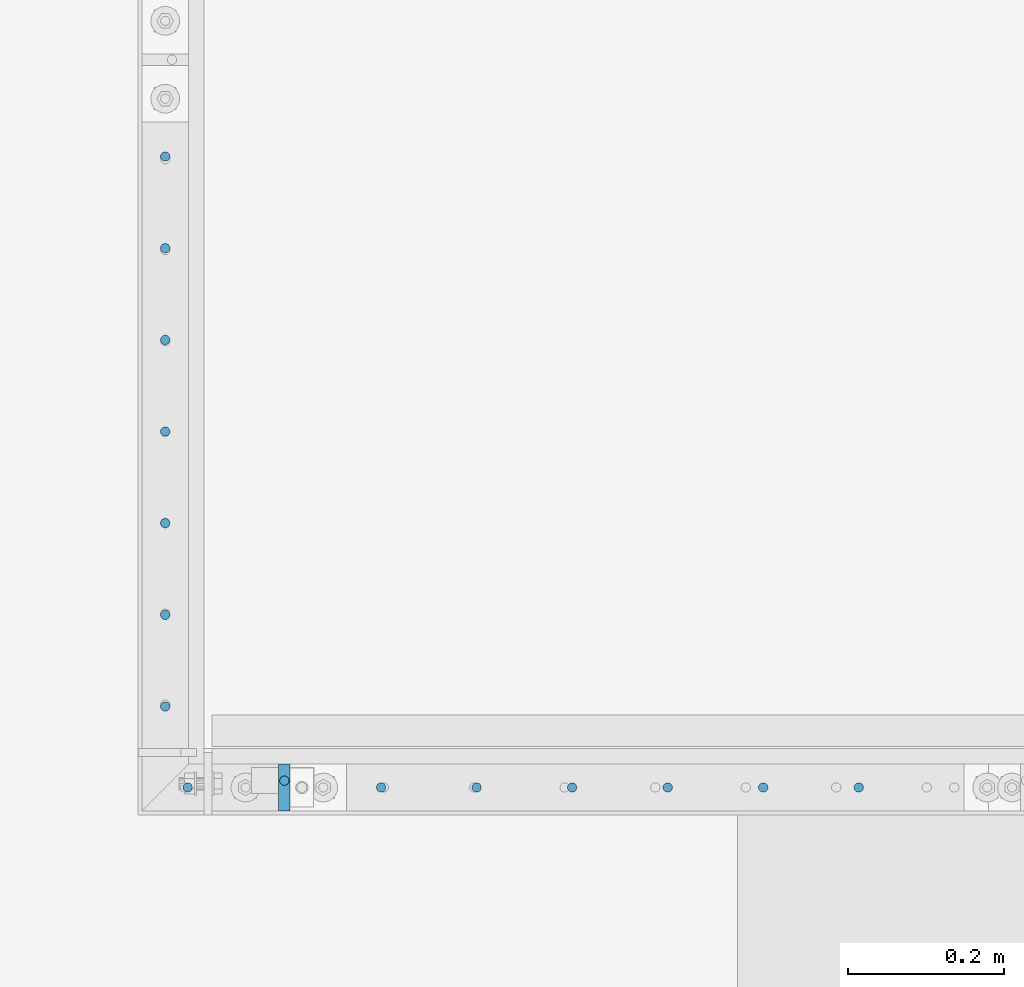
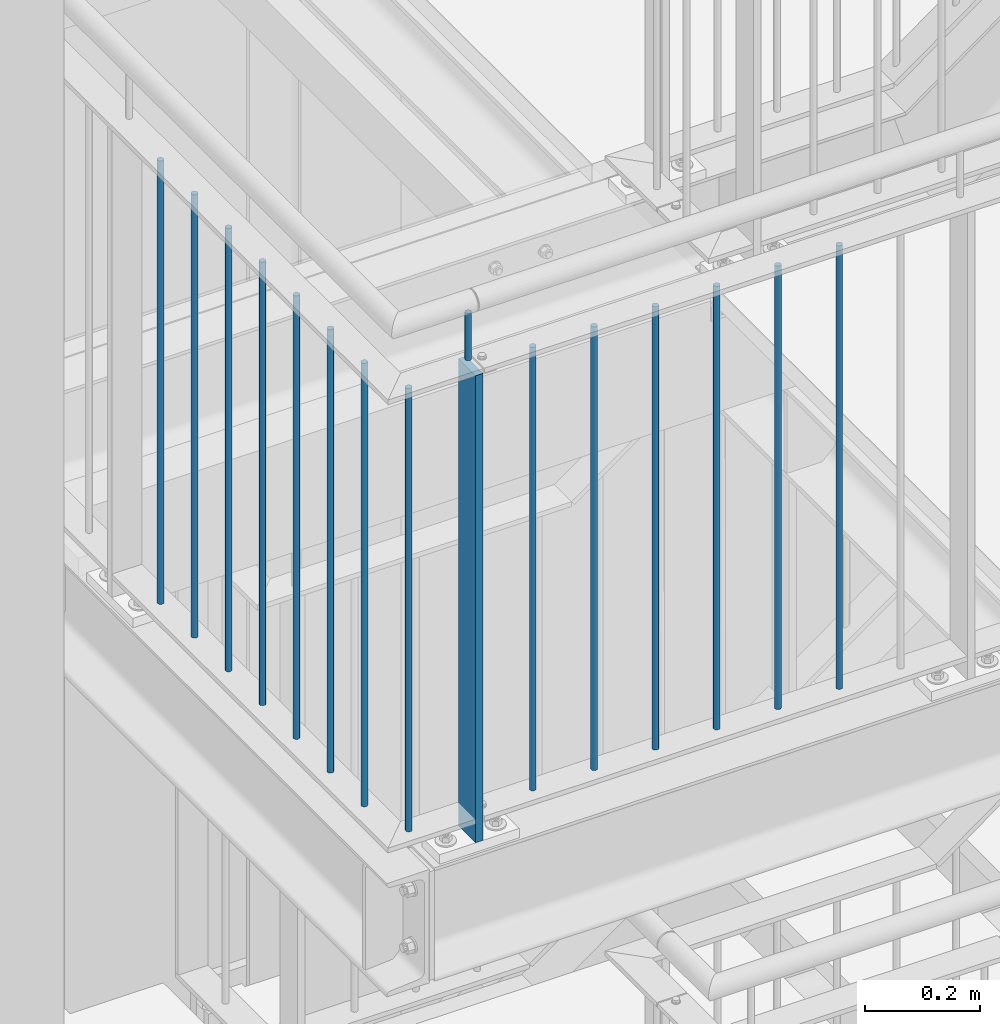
# One storey, part 5 of 825: 16 columns.
"""IFC2X3 building model written with IfcOpenShell, lengths in millimetres."""

import ifcopenshell
import ifcopenshell.guid

model = None  # the IFC model being written
_history = None  # IfcOwnerHistory: only IFC2X3 demands one
_inside = {}  # id of a spatial element -> (the spatial element, [elements in it])
_under = {}  # id of a project, library or spatial element -> (it, [spatial elements below it])
_declared = {}  # id of a project -> (the project, [libraries it declares])
_typed = {}  # id of a type object -> (the type object, [elements of that type])
_made_of = {}  # id of a material, layer set ... -> (it, [elements and type objects made of it])


def new_model(schema):
    """Start an empty IFC model of exactly this schema.

    Asked for "IFC4X3", IfcOpenShell would pick the latest addendum, in which some entities
    have other attributes; the version numbers below select the first issue.
    IFC2X3 requires an IfcOwnerHistory on every rooted entity: one is made here for all.
    """
    global model, _history
    if schema == "IFC4X3":
        model = ifcopenshell.file(schema_version=(4, 3, 0, 0))
    else:
        model = ifcopenshell.file(schema=schema)
    _inside.clear()
    _under.clear()
    _declared.clear()
    _typed.clear()
    _made_of.clear()
    _history = None
    if model.schema == "IFC2X3":
        org = make("IfcOrganization", Name="unknown")
        user = make(
            "IfcPersonAndOrganization",
            ThePerson=make("IfcPerson", FamilyName="unknown"),
            TheOrganization=org,
        )
        app = make(
            "IfcApplication",
            ApplicationDeveloper=org,
            Version="unknown",
            ApplicationFullName="unknown",
            ApplicationIdentifier="unknown",
        )
        _history = make(
            "IfcOwnerHistory",
            OwningUser=user,
            OwningApplication=app,
            ChangeAction="ADDED",
            CreationDate=0,
        )
    return model


def make(cls, **values):
    """One entity of the class cls with the attributes given. An attribute that is None is left unset."""
    return model.create_entity(
        cls, **{name: value for name, value in values.items() if value is not None}
    )


def entity(cls, *values):
    """Any entity or typed value of the class cls, its attributes in the order of the schema. None: left unset."""
    e = model.create_entity(cls)
    for i, value in enumerate(values):
        if value is not None:
            e[i] = value
    return e


def rooted(cls, **values):
    """An entity with a GlobalId (a new one), such as an element, a storey or a relation."""
    return make(cls, GlobalId=ifcopenshell.guid.new(), OwnerHistory=_history, **values)


def si_unit(unit_type, name, prefix=None):
    """IfcSIUnit, for example si_unit("LENGTHUNIT", "METRE", prefix="MILLI")."""
    return make("IfcSIUnit", UnitType=unit_type, Prefix=prefix, Name=name)


def converted_unit(unit_type, name, factor, base, dimensions=None, offset=None):
    """IfcConversionBasedUnit, such as the inch: factor (a typed value) times the base unit."""
    return make(
        "IfcConversionBasedUnit"
        if offset is None
        else "IfcConversionBasedUnitWithOffset",
        ConversionOffset=offset,
        Dimensions=None
        if dimensions is None
        else entity("IfcDimensionalExponents", *dimensions),
        UnitType=unit_type,
        Name=name,
        ConversionFactor=make(
            "IfcMeasureWithUnit", ValueComponent=factor, UnitComponent=base
        ),
    )


def assignment(units):
    """IfcUnitAssignment: the units of a project."""
    return None if units is None else make("IfcUnitAssignment", Units=units)


def point(xyz):
    """IfcCartesianPoint."""
    return None if xyz is None else make("IfcCartesianPoint", Coordinates=xyz)


def direction(xyz):
    """IfcDirection."""
    return None if xyz is None else make("IfcDirection", DirectionRatios=xyz)


def frame(location, z_axis=None, x_axis=None):
    """IfcAxis2Placement3D, a coordinate frame: its origin and axes. An axis left out is left unset."""
    return make(
        "IfcAxis2Placement3D",
        Location=point(location),
        Axis=direction(z_axis),
        RefDirection=direction(x_axis),
    )


def frame_2d(location, x_axis=None):
    """IfcAxis2Placement2D, a coordinate frame in the plane: its origin and x axis."""
    return make(
        "IfcAxis2Placement2D", Location=point(location), RefDirection=direction(x_axis)
    )


def origin():
    """The frame at (0, 0, 0) with its axes left unset."""
    return frame((0.0, 0.0, 0.0))


def origin_with_axes():
    """The frame at (0, 0, 0) with the z axis (0, 0, 1) and the x axis (1, 0, 0) written out."""
    return frame((0.0, 0.0, 0.0), z_axis=(0.0, 0.0, 1.0), x_axis=(1.0, 0.0, 0.0))


def origin_2d():
    """The frame at (0, 0) in the plane with its x axis left unset."""
    return frame_2d((0.0, 0.0))


def place(relative_to, where):
    """IfcLocalPlacement: puts the frame where relative to a parent placement (None: the world)."""
    return make(
        "IfcLocalPlacement", PlacementRelTo=relative_to, RelativePlacement=where
    )


def context(
    kind, dimensions, precision=None, world=None, true_north=None, identifier=None
):
    """IfcGeometricRepresentationContext, for example the 3D "Model" context."""
    return make(
        "IfcGeometricRepresentationContext",
        ContextIdentifier=identifier,
        ContextType=kind,
        CoordinateSpaceDimension=dimensions,
        Precision=precision,
        WorldCoordinateSystem=world,
        TrueNorth=true_north,
    )


def project(units=None, contexts=None):
    """IfcProject with its units and contexts."""
    return rooted(
        "IfcProject",
        Name="project",
        RepresentationContexts=contexts,
        UnitsInContext=assignment(units),
    )


def spatial(cls, under=None, at=None, **own):
    """A site, building, storey or space (cls), placed at a placement, below another one or the project."""
    s = rooted(cls, ObjectPlacement=at, **own)
    if under is not None:
        _under.setdefault(under.id(), (under, []))[1].append(s)
    return s


def profile(cls, at=None, kind="AREA", **sizes):
    """A parametric profile (cls). Its sizes go by their IFC names, for example OverallWidth=200.0."""
    return make(cls, ProfileType=kind, Position=at, **sizes)


def rectangle(**sizes):
    """IfcRectangleProfileDef."""
    return profile("IfcRectangleProfileDef", **sizes)


def circle(**sizes):
    """IfcCircleProfileDef."""
    return profile("IfcCircleProfileDef", **sizes)


def extrude(swept, where, along, depth):
    """IfcExtrudedAreaSolid: the profile swept, set in the frame where, extruded along a direction by depth."""
    return make(
        "IfcExtrudedAreaSolid",
        SweptArea=swept,
        Position=where,
        ExtrudedDirection=direction(along),
        Depth=depth,
    )


def clip(a, b, op="DIFFERENCE"):
    """IfcBooleanClippingResult: the solid a cut by the half space b."""
    return make(
        "IfcBooleanClippingResult", Operator=op, FirstOperand=a, SecondOperand=b
    )


def halfspace(plane, agree):
    """IfcHalfSpaceSolid: all space on one side of the plane z = 0 of the frame plane."""
    return make(
        "IfcHalfSpaceSolid",
        BaseSurface=make("IfcPlane", Position=plane),
        AgreementFlag=agree,
    )


def shape(context_of_items, identifier, shape_type, items):
    """IfcShapeRepresentation: the items that make up one representation, for example the "Body"."""
    return make(
        "IfcShapeRepresentation",
        ContextOfItems=context_of_items,
        RepresentationIdentifier=identifier,
        RepresentationType=shape_type,
        Items=items,
    )


def material(Name=None, Category=None):
    """IfcMaterial."""
    return make("IfcMaterial", Name=Name, Category=Category)


def made_of(thing, what):
    """Note that an element or type object is made of a material, layer set ...; save() writes the relation."""
    if what is not None:
        _made_of.setdefault(what.id(), (what, []))[1].append(thing)
    return thing


def element(
    cls,
    number,
    at=None,
    inside=None,
    cuts=None,
    type_object=None,
    material=None,
    context=None,
    identifier="Body",
    shape_type=None,
    held_by="IfcProductDefinitionShape",
    body=None,
    shapes=None,
    **own,
):
    """One element of the class cls, such as IfcWall. Its Tag is "e" and its number.

    at: its placement. inside: the storey or other place that contains it. cuts: it is an
    opening in that element (IfcRelVoidsElement). A single representation is given by context,
    identifier, shape_type and body (its items); several are given by shapes. held_by: the class
    of the entity that holds the representations. save() writes the other relations.
    """
    e = rooted(cls, Tag="e%d" % number, ObjectPlacement=at, **own)
    if body is not None:
        shapes = [shape(context, identifier, shape_type, body)]
    if shapes is not None:
        e.Representation = make(held_by, Representations=shapes)
    if inside is not None:
        _inside.setdefault(inside.id(), (inside, []))[1].append(e)
    if cuts is not None:
        rooted(
            "IfcRelVoidsElement", RelatingBuildingElement=cuts, RelatedOpeningElement=e
        )
    if type_object is not None:
        _typed.setdefault(type_object.id(), (type_object, []))[1].append(e)
    return made_of(e, material)


def aggregate(whole, parts):
    """IfcRelAggregates: a whole, such as a stair, and the parts it consists of."""
    return rooted("IfcRelAggregates", RelatingObject=whole, RelatedObjects=parts)


def save(model, path):
    """Write the relations noted so far, then the file.

    IfcRelAggregates (storeys below a building ...), IfcRelContainedInSpatialStructure (elements
    in a storey), IfcRelDefinesByType, IfcRelAssociatesMaterial and IfcRelDeclares: one each for
    every whole, place, type object, material and project.
    """
    for whole, parts in _under.values():
        aggregate(whole, parts)
    for where, things in _inside.values():
        rooted(
            "IfcRelContainedInSpatialStructure",
            RelatedElements=things,
            RelatingStructure=where,
        )
    for kind, things in _typed.values():
        rooted("IfcRelDefinesByType", RelatedObjects=things, RelatingType=kind)
    for what, things in _made_of.values():
        rooted("IfcRelAssociatesMaterial", RelatedObjects=things, RelatingMaterial=what)
    for by, libraries in _declared.values():
        rooted("IfcRelDeclares", RelatingContext=by, RelatedDefinitions=libraries)
    model.write(path)


model = new_model("IFC2X3")

# Units and contexts
model_context = context("Model", 3, precision=1e-09, world=origin_with_axes())
ifc_project = project(units=[si_unit("LENGTHUNIT", "METRE", prefix="MILLI"), si_unit("AREAUNIT", "SQUARE_METRE"), si_unit("VOLUMEUNIT", "CUBIC_METRE"), converted_unit("PLANEANGLEUNIT", "DEGREE", entity("IfcPlaneAngleMeasure", 0.01745329), si_unit("PLANEANGLEUNIT", "RADIAN"), dimensions=[0, 0, 0, 0, 0, 0, 0])], contexts=[model_context])

# Site, building, storey
site_placement = place(None, origin_with_axes())
site = spatial("IfcSite", under=ifc_project, at=site_placement, Name="Cnopf'sche Kinderklinik", CompositionType="ELEMENT")
building_placement = place(site_placement, origin_with_axes())
building = spatial("IfcBuilding", under=site, at=building_placement, Name="Struktur 1", CompositionType="ELEMENT")
storey_placement = place(building_placement, origin_with_axes())
storey = spatial("IfcBuildingStorey", under=building, at=storey_placement, Name="Default Storey", CompositionType="ELEMENT", Elevation=0.0)

# Columns
ifc_material = material(Name="S235JR")
column_1_placement = place(None, frame((3424.79154585, 4526.736971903, 10991.723292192), z_axis=(0.0, 0.0, 1.0), x_axis=(-1.0, 0.0, 0.0)))
element("IfcColumn", 1, at=column_1_placement, inside=storey, material=ifc_material, Name="Railing_Post_Landing#13", ObjectType="Railing_Post_Landing#13", context=model_context, shape_type="Clipping", body=[
    clip(clip(extrude(rectangle(XDim=15.0, YDim=60.0, at=origin_2d()), origin(), (0.0, 0.0, -1.0), 1070.646584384), halfspace(frame((3424.79154585, 4526.736971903, -1019.722292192), z_axis=(0.0, 0.0, 1.0), x_axis=(-1.0, 0.0, 0.0)), True)), halfspace(frame((3424.79154585, 4526.736971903, -30.924292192), z_axis=(0.0, 0.0, -1.0), x_axis=(1.0, 0.0, 0.0)), True)),
])
column_2_placement = place(None, frame((4162.791664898, 4526.736971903, 10974.285281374), z_axis=(0.0, 0.0, 1.0), x_axis=(-1.0, 0.0, 0.0)))
element("IfcColumn", 2, at=column_2_placement, inside=storey, material=ifc_material, Name="Railing_Picket_Landing#84", ObjectType="Railing_Picket_Landing#84", context=model_context, shape_type="Clipping", body=[
    clip(clip(extrude(circle(Radius=6.0, at=origin_2d()), origin(), (0.0, 0.0, -1.0), 965.770562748), halfspace(frame((4162.791664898, 4526.736971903, -13.486281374), z_axis=(0.0, 0.0, -1.0), x_axis=(1.0, 0.0, 0.0)), True)), halfspace(frame((4162.791664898, 4526.736971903, -952.284281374), z_axis=(0.0, 0.0, 1.0), x_axis=(-1.0, 0.0, 0.0)), True)),
])
column_3_placement = place(None, frame((4040.041641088, 4526.736971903, 10974.285281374), z_axis=(0.0, 0.0, 1.0), x_axis=(-1.0, 0.0, 0.0)))
element("IfcColumn", 3, at=column_3_placement, inside=storey, material=ifc_material, Name="Railing_Picket_Landing#85", ObjectType="Railing_Picket_Landing#85", context=model_context, shape_type="Clipping", body=[
    clip(clip(extrude(circle(Radius=6.0, at=origin_2d()), origin(), (0.0, 0.0, -1.0), 965.770562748), halfspace(frame((4040.041641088, 4526.736971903, -13.486281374), z_axis=(0.0, 0.0, -1.0), x_axis=(1.0, 0.0, 0.0)), True)), halfspace(frame((4040.041641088, 4526.736971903, -952.284281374), z_axis=(0.0, 0.0, 1.0), x_axis=(-1.0, 0.0, 0.0)), True)),
])
column_4_placement = place(None, frame((3917.291617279, 4526.736971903, 10974.285281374), z_axis=(0.0, 0.0, 1.0), x_axis=(-1.0, 0.0, 0.0)))
element("IfcColumn", 4, at=column_4_placement, inside=storey, material=ifc_material, Name="Railing_Picket_Landing#86", ObjectType="Railing_Picket_Landing#86", context=model_context, shape_type="Clipping", body=[
    clip(clip(extrude(circle(Radius=6.0, at=origin_2d()), origin(), (0.0, 0.0, -1.0), 965.770562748), halfspace(frame((3917.291617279, 4526.736971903, -13.486281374), z_axis=(0.0, 0.0, -1.0), x_axis=(1.0, 0.0, 0.0)), True)), halfspace(frame((3917.291617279, 4526.736971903, -952.284281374), z_axis=(0.0, 0.0, 1.0), x_axis=(-1.0, 0.0, 0.0)), True)),
])
column_5_placement = place(None, frame((3794.541593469, 4526.736971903, 10974.285281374), z_axis=(0.0, 0.0, 1.0), x_axis=(-1.0, 0.0, 0.0)))
element("IfcColumn", 5, at=column_5_placement, inside=storey, material=ifc_material, Name="Railing_Picket_Landing#87", ObjectType="Railing_Picket_Landing#87", context=model_context, shape_type="Clipping", body=[
    clip(clip(extrude(circle(Radius=6.0, at=origin_2d()), origin(), (0.0, 0.0, -1.0), 965.770562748), halfspace(frame((3794.541593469, 4526.736971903, -13.486281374), z_axis=(0.0, 0.0, -1.0), x_axis=(1.0, 0.0, 0.0)), True)), halfspace(frame((3794.541593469, 4526.736971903, -952.284281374), z_axis=(0.0, 0.0, 1.0), x_axis=(-1.0, 0.0, 0.0)), True)),
])
column_6_placement = place(None, frame((3671.79156966, 4526.736971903, 10974.285281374), z_axis=(0.0, 0.0, 1.0), x_axis=(-1.0, 0.0, 0.0)))
element("IfcColumn", 6, at=column_6_placement, inside=storey, material=ifc_material, Name="Railing_Picket_Landing#88", ObjectType="Railing_Picket_Landing#88", context=model_context, shape_type="Clipping", body=[
    clip(clip(extrude(circle(Radius=6.0, at=origin_2d()), origin(), (0.0, 0.0, -1.0), 965.770562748), halfspace(frame((3671.79156966, 4526.736971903, -13.486281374), z_axis=(0.0, 0.0, -1.0), x_axis=(1.0, 0.0, 0.0)), True)), halfspace(frame((3671.79156966, 4526.736971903, -952.284281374), z_axis=(0.0, 0.0, 1.0), x_axis=(-1.0, 0.0, 0.0)), True)),
])
column_7_placement = place(None, frame((3549.04154585, 4526.736971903, 10974.285281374), z_axis=(0.0, 0.0, 1.0), x_axis=(-1.0, 0.0, 0.0)))
element("IfcColumn", 7, at=column_7_placement, inside=storey, material=ifc_material, Name="Railing_Picket_Landing#89", ObjectType="Railing_Picket_Landing#89", context=model_context, shape_type="Clipping", body=[
    clip(clip(extrude(circle(Radius=6.0, at=origin_2d()), origin(), (0.0, 0.0, -1.0), 965.770562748), halfspace(frame((3549.04154585, 4526.736971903, -13.486281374), z_axis=(0.0, 0.0, -1.0), x_axis=(1.0, 0.0, 0.0)), True)), halfspace(frame((3549.04154585, 4526.736971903, -952.284281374), z_axis=(0.0, 0.0, 1.0), x_axis=(-1.0, 0.0, 0.0)), True)),
])
column_8_placement = place(None, frame((3300.54154585, 4526.736971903, 10974.285281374), z_axis=(0.0, 0.0, 1.0), x_axis=(-1.0, 0.0, 0.0)))
element("IfcColumn", 8, at=column_8_placement, inside=storey, material=ifc_material, Name="Railing_Picket_Landing#90", ObjectType="Railing_Picket_Landing#90", context=model_context, shape_type="Clipping", body=[
    clip(clip(extrude(circle(Radius=6.0, at=origin_2d()), origin(), (0.0, 0.0, -1.0), 965.770562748), halfspace(frame((3300.54154585, 4526.736971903, -13.486281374), z_axis=(0.0, 0.0, -1.0), x_axis=(1.0, 0.0, 0.0)), True)), halfspace(frame((3300.54154585, 4526.736971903, -952.284281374), z_axis=(0.0, 0.0, 1.0), x_axis=(-1.0, 0.0, 0.0)), True)),
])
column_9_placement = place(None, frame((3271.713402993, 4630.705992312, 10974.285281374), z_axis=(0.0, 0.0, 1.0), x_axis=(0.0, 1.0, 0.0)))
element("IfcColumn", 9, at=column_9_placement, inside=storey, material=ifc_material, Name="Railing_Picket_Landing#91", ObjectType="Railing_Picket_Landing#91", context=model_context, shape_type="Clipping", body=[
    clip(clip(extrude(circle(Radius=6.0, at=origin_2d()), origin(), (0.0, 0.0, -1.0), 965.770562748), halfspace(frame((-4630.705992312, 3271.713402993, -13.486281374), z_axis=(0.0, 0.0, -1.0), x_axis=(0.0, 1.0, 0.0)), True)), halfspace(frame((-4630.705992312, 3271.713402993, -952.284281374), z_axis=(0.0, 0.0, 1.0), x_axis=(0.0, -1.0, 0.0)), True)),
])
column_10_placement = place(None, frame((3271.713402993, 4748.503155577, 10974.285281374), z_axis=(0.0, 0.0, 1.0), x_axis=(0.0, 1.0, 0.0)))
element("IfcColumn", 10, at=column_10_placement, inside=storey, material=ifc_material, Name="Railing_Picket_Landing#92", ObjectType="Railing_Picket_Landing#92", context=model_context, shape_type="Clipping", body=[
    clip(clip(extrude(circle(Radius=6.0, at=origin_2d()), origin(), (0.0, 0.0, -1.0), 965.770562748), halfspace(frame((-4748.503155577, 3271.713402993, -13.486281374), z_axis=(0.0, 0.0, -1.0), x_axis=(0.0, 1.0, 0.0)), True)), halfspace(frame((-4748.503155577, 3271.713402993, -952.284281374), z_axis=(0.0, 0.0, 1.0), x_axis=(0.0, -1.0, 0.0)), True)),
])
column_11_placement = place(None, frame((3271.713402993, 4866.300318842, 10974.285281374), z_axis=(0.0, 0.0, 1.0), x_axis=(0.0, 1.0, 0.0)))
element("IfcColumn", 11, at=column_11_placement, inside=storey, material=ifc_material, Name="Railing_Picket_Landing#93", ObjectType="Railing_Picket_Landing#93", context=model_context, shape_type="Clipping", body=[
    clip(clip(extrude(circle(Radius=6.0, at=origin_2d()), origin(), (0.0, 0.0, -1.0), 965.770562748), halfspace(frame((-4866.300318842, 3271.713402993, -13.486281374), z_axis=(0.0, 0.0, -1.0), x_axis=(0.0, 1.0, 0.0)), True)), halfspace(frame((-4866.300318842, 3271.713402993, -952.284281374), z_axis=(0.0, 0.0, 1.0), x_axis=(0.0, -1.0, 0.0)), True)),
])
column_12_placement = place(None, frame((3271.713402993, 4984.097482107, 10974.285281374), z_axis=(0.0, 0.0, 1.0), x_axis=(0.0, 1.0, 0.0)))
element("IfcColumn", 12, at=column_12_placement, inside=storey, material=ifc_material, Name="Railing_Picket_Landing#94", ObjectType="Railing_Picket_Landing#94", context=model_context, shape_type="Clipping", body=[
    clip(clip(extrude(circle(Radius=6.0, at=origin_2d()), origin(), (0.0, 0.0, -1.0), 965.770562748), halfspace(frame((-4984.097482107, 3271.713402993, -13.486281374), z_axis=(0.0, 0.0, -1.0), x_axis=(0.0, 1.0, 0.0)), True)), halfspace(frame((-4984.097482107, 3271.713402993, -952.284281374), z_axis=(0.0, 0.0, 1.0), x_axis=(0.0, -1.0, 0.0)), True)),
])
column_13_placement = place(None, frame((3271.713402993, 5101.894645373, 10974.285281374), z_axis=(0.0, 0.0, 1.0), x_axis=(0.0, 1.0, 0.0)))
element("IfcColumn", 13, at=column_13_placement, inside=storey, material=ifc_material, Name="Railing_Picket_Landing#95", ObjectType="Railing_Picket_Landing#95", context=model_context, shape_type="Clipping", body=[
    clip(clip(extrude(circle(Radius=6.0, at=origin_2d()), origin(), (0.0, 0.0, -1.0), 965.770562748), halfspace(frame((-5101.894645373, 3271.713402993, -13.486281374), z_axis=(0.0, 0.0, -1.0), x_axis=(0.0, 1.0, 0.0)), True)), halfspace(frame((-5101.894645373, 3271.713402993, -952.284281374), z_axis=(0.0, 0.0, 1.0), x_axis=(0.0, -1.0, 0.0)), True)),
])
column_14_placement = place(None, frame((3271.713402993, 5219.691808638, 10974.285281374), z_axis=(0.0, 0.0, 1.0), x_axis=(0.0, 1.0, 0.0)))
element("IfcColumn", 14, at=column_14_placement, inside=storey, material=ifc_material, Name="Railing_Picket_Landing#96", ObjectType="Railing_Picket_Landing#96", context=model_context, shape_type="Clipping", body=[
    clip(clip(extrude(circle(Radius=6.0, at=origin_2d()), origin(), (0.0, 0.0, -1.0), 965.770562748), halfspace(frame((-5219.691808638, 3271.713402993, -13.486281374), z_axis=(0.0, 0.0, -1.0), x_axis=(0.0, 1.0, 0.0)), True)), halfspace(frame((-5219.691808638, 3271.713402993, -952.284281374), z_axis=(0.0, 0.0, 1.0), x_axis=(0.0, -1.0, 0.0)), True)),
])
column_15_placement = place(None, frame((3271.713402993, 5337.488971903, 10974.285281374), z_axis=(0.0, 0.0, 1.0), x_axis=(0.0, 1.0, 0.0)))
element("IfcColumn", 15, at=column_15_placement, inside=storey, material=ifc_material, Name="Railing_Picket_Landing#97", ObjectType="Railing_Picket_Landing#97", context=model_context, shape_type="Clipping", body=[
    clip(clip(extrude(circle(Radius=6.0, at=origin_2d()), origin(), (0.0, 0.0, -1.0), 965.770562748), halfspace(frame((-5337.488971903, 3271.713402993, -13.486281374), z_axis=(0.0, 0.0, -1.0), x_axis=(0.0, 1.0, 0.0)), True)), halfspace(frame((-5337.488971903, 3271.713402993, -952.284281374), z_axis=(0.0, 0.0, 1.0), x_axis=(0.0, -1.0, 0.0)), True)),
])
column_16_placement = place(None, frame((3424.79154585, 4535.536971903, 11079.285281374), z_axis=(0.0, 0.0, 1.0), x_axis=(0.0, 1.0, 0.0)))
element("IfcColumn", 16, at=column_16_placement, inside=storey, material=ifc_material, Name="Bar#13", ObjectType="Bar#13", context=model_context, shape_type="Clipping", body=[
    clip(clip(extrude(circle(Radius=6.0, at=origin_2d()), origin(), (0.0, 0.0, -1.0), 116.970562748), halfspace(frame((-4535.536971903, 3424.79154585, -8.486281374), z_axis=(0.0, 0.0, -1.0), x_axis=(0.0, 1.0, 0.0)), True)), halfspace(frame((-4535.536971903, 3424.79154585, -108.484281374), z_axis=(0.0, 0.0, 1.0), x_axis=(0.0, -1.0, 0.0)), True)),
])

save(model, "model.ifc")
